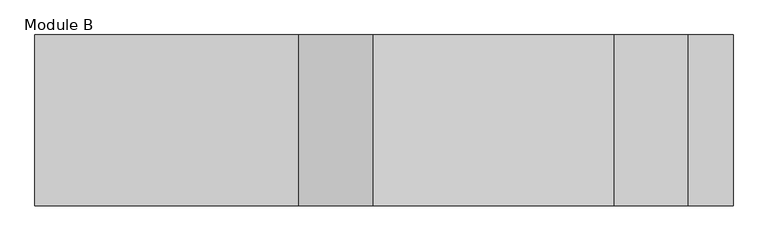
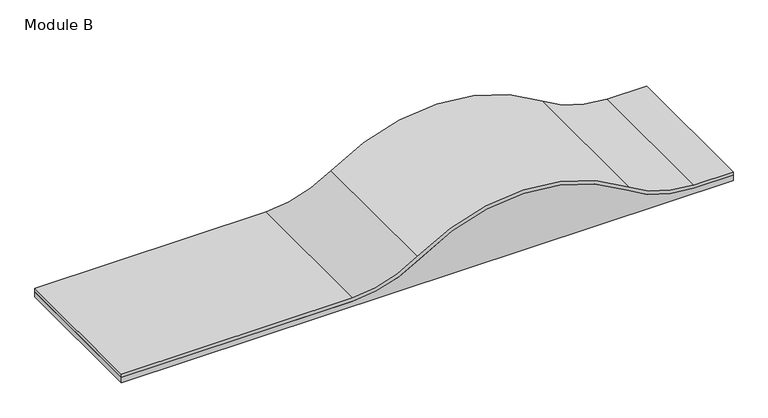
"""IFC4 building model written with IfcOpenShell, lengths in millimetres: proxy geometry, Spinneybeck_Wave : Module B."""

from ifc_helpers import new_model, si_unit, point, frame, frame_2d, origin, place, context, project, spatial, polyline, circle_curve, trimmed, segment, composite_curve, outline, extrude, source, transform, mapped, element, save


def module_b_d47c937a(model_context):
    return source(origin(), model_context, "Body", "SweptSolid", [
        extrude(outline(composite_curve([segment(trimmed(circle_curve(frame_2d((219.5710938, 477.3593722)), 203.2), [point((16.3710938, 477.3593722))], [point((53.4151232, 360.3874377))], True, "CARTESIAN"), True, "CONTINUOUS"), segment(trimmed(circle_curve(frame_2d((-214.9662069, 171.45)), 328.2162301), [point((53.4151232, 360.3874377))], [point((53.4151232, -17.4874377))], False, "CARTESIAN"), True, "CONTINUOUS"), segment(trimmed(circle_curve(frame_2d((219.5710938, -134.4593722)), 203.2), [point((53.4151232, -17.4874377))], [point((16.3710938, -134.4593722))], True, "CARTESIAN"), True, "CONTINUOUS"), segment(polyline([(16.3710938, -134.4593722), (16.3710938, -547.37), (10.0210938, -547.37), (10.0210937, -134.4593722)]), True, "CONTINUOUS"), segment(trimmed(circle_curve(frame_2d((219.5710938, -134.4593722)), 209.55), [point((10.0210937, -134.4593722))], [point((48.2227491, -13.8320648))], False, "CARTESIAN"), True, "CONTINUOUS"), segment(trimmed(circle_curve(frame_2d((-214.9662069, 171.45)), 321.8662301), [point((48.2227491, -13.8320648))], [point((48.2227491, 356.7320648))], True, "CARTESIAN"), True, "CONTINUOUS"), segment(trimmed(circle_curve(frame_2d((219.5710938, 477.3593722)), 209.55), [point((48.2227491, 356.7320648))], [point((10.0210938, 477.3593722))], False, "CARTESIAN"), True, "CONTINUOUS"), segment(polyline([(10.0210938, 477.3593722), (10.0210938, 547.37), (16.3710938, 547.37), (16.3710938, 477.3593722)]), True, "CONTINUOUS")], self_intersect=False)), frame((0.0, -134.0996528, 0.0), z_axis=(0.0, 1.0, 0.0), x_axis=(0.0, 0.0, 1.0)), (0.0, 0.0, 1.0), 268.1993056),
        extrude(outline(composite_curve([segment(trimmed(circle_curve(frame_2d((219.5710938, -134.4593722)), 209.55), [point((48.2227491, -13.8320648))], [point((10.0210938, -134.4593722))], True, "CARTESIAN"), True, "CONTINUOUS"), segment(polyline([(10.0210938, -134.4593722), (10.0210937, -547.37), (0.0, -547.37), (0.0, 547.37), (10.0210938, 547.37), (10.0210938, 477.3593722)]), True, "CONTINUOUS"), segment(trimmed(circle_curve(frame_2d((219.5710938, 477.3593722)), 209.55), [point((10.0210938, 477.3593722))], [point((48.2227491, 356.7320648))], True, "CARTESIAN"), True, "CONTINUOUS"), segment(trimmed(circle_curve(frame_2d((-214.9662069, 171.45)), 321.8662301), [point((48.2227491, 356.7320648))], [point((48.2227491, -13.8320648))], False, "CARTESIAN"), True, "CONTINUOUS")], self_intersect=False)), frame((0.0, -134.0996528, 0.0), z_axis=(0.0, 1.0, 0.0), x_axis=(0.0, 0.0, 1.0)), (0.0, 0.0, 1.0), 268.1993056),
    ])


if __name__ == "__main__":
    model = new_model("IFC4")
    model_context = context("Model", 3, world=origin())
    ifc_project = project(units=[si_unit("LENGTHUNIT", "METRE", prefix="MILLI")], contexts=[model_context])
    site = spatial("IfcSite", under=ifc_project)
    building = spatial("IfcBuilding", under=site)
    placement = place(None, origin())
    module_b_shape = module_b_d47c937a(model_context)
    element("IfcBuildingElementProxy", 1, Name="Spinneybeck_Wave : Module B", ObjectType="Spinneybeck_Wave : Module B", at=placement, inside=building, context=model_context, shape_type="MappedRepresentation", body=[
        mapped(module_b_shape, transform((0.0, 0.0, 0.0), x_axis=(1.0, 0.0, 0.0), y_axis=(0.0, 1.0, 0.0), z_axis=(0.0, 0.0, 1.0))),
    ])
    save(model, "model.ifc")
